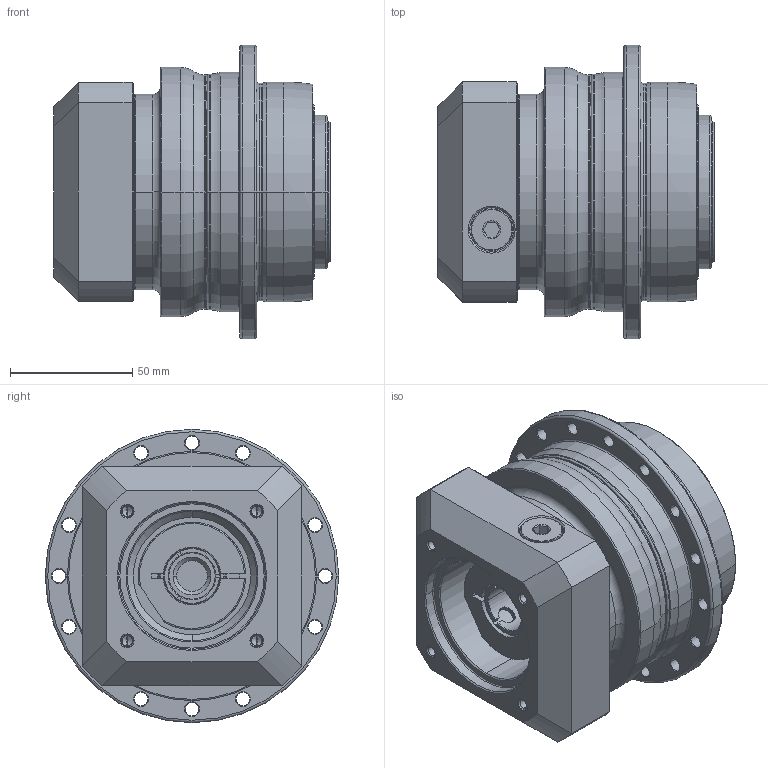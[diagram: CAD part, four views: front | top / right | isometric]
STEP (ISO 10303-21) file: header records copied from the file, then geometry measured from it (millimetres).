
FILE_DESCRIPTION((''),'2;1');
FILE_NAME('AP090_1ST_19-P0409400201_ASM','2018-10-16T',('d01226'),(''),'PRO/ENGINEER BY PARAMETRIC TECHNOLOGY CORPORATION, 2015240','PRO/ENGINEER BY PARAMETRIC TECHNOLOGY CORPORATION, 2015240','');
FILE_SCHEMA(('CONFIG_CONTROL_DESIGN'));
Length unit declared in the file: millimetre
Products named in the file (9): P0278301003; P0359301103; P1318310201; P0503400006; P0912302001; P1211300001; P0409400201; 21711412017; AP090_1ST_19-P0409400201_ASM
Assembly tree (8 placements, depth 2):
  AP090_1ST_19-P0409400201_ASM
    P0278301003
    P0359301103
    P1318310201
    P0503400006
    P0912302001
    P1211300001
    P0409400201
    21711412017
Bounding box: 113 x 120 x 120 mm (x, y, z)
Volume: 655556.3 mm3; surface area: 135338 mm2
Topology: 9 solids, 30 shells, 567 faces, 1307 edges, 804 vertices
Faces by surface type: cylinder 236, cone 146, plane 101, torus 70, bspline 14
Entity records: 20740 total; most frequent: CARTESIAN_POINT 7188, DIRECTION 3113, ORIENTED_EDGE 2512, AXIS2_PLACEMENT_3D 1333, EDGE_CURVE 1299, VERTEX_POINT 804, CIRCLE 753, EDGE_LOOP 693
